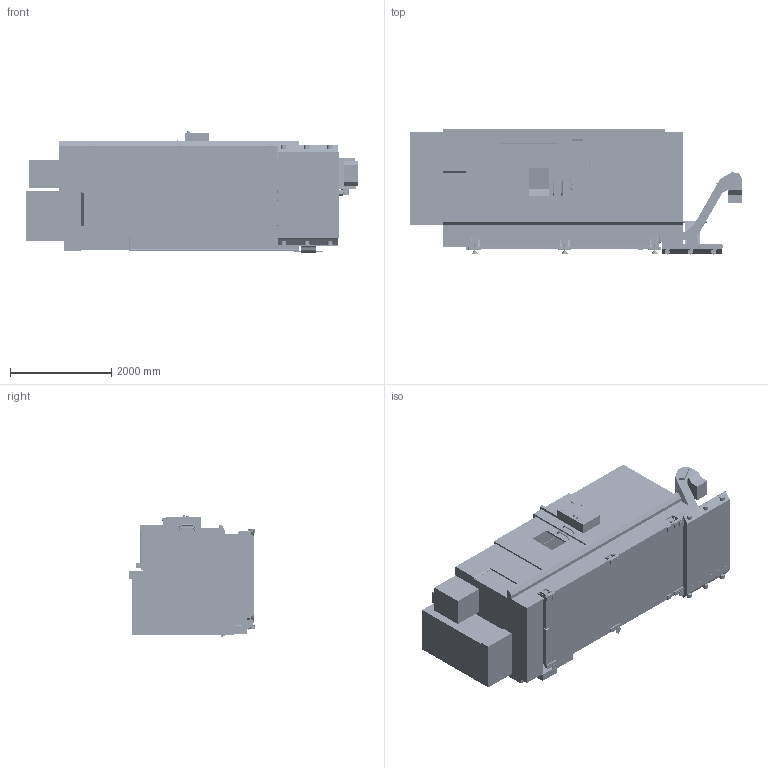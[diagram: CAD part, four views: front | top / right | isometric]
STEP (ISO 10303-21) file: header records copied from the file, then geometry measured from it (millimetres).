
FILE_DESCRIPTION (( 'STEP AP203' ), '1' );
FILE_NAME ('ST-55Y_2_2026.STEP', '2026-02-04T20:09:57', ( '' ), ( '' ), 'SwSTEP 2.0', 'SolidWorks 2023', '' );
FILE_SCHEMA (( 'CONFIG_CONTROL_DESIGN' ));
Length unit declared in the file: inch
Products named in the file (22): ST-55Y- Belt- Style Chip Conveyor; ST-55Y- Spindle assembly; ST-55Y-BMT75 Inch 24 Station Tool Kit; ST-55- Anchor Pattern; ST-55Y- Y-Z axis Wedge; ST-55Y-BMT75 Live Tool Kit; ST-55Y- Steady Rest; ST-55Y- Live center; ST-55Y- 95 gallon tank; ST-55Y- X-Y  Axis Wedge; ST-55Y- Leveling Pads; ST-55Y- Tail Stock; ST-55Y- Enclosure; ST-55Y- Control Panel; ST-55Y- Base Casting; ST-55Y- Doors; ST-55Y-BMT75 Turret; ST-55Y-BMT75-Metric Tool Kit; ST-55Y- X- Axis Turret Housing; ST-55Y-BMT75-Inch Tool Kit; ST-55Y_2_2026; ST-55Y-BMT75 Metric 24 Station Tool Kit
Assembly tree (21 placements, depth 2):
  ST-55Y_2_2026
    ST-55- Anchor Pattern
    ST-55Y- Leveling Pads
    ST-55Y- Base Casting
    ST-55Y- Spindle assembly
    ST-55Y- Tail Stock
    ST-55Y- Live center
    ST-55Y- Steady Rest
    ST-55Y- Y-Z axis Wedge
    ST-55Y- X-Y  Axis Wedge
    ST-55Y- X- Axis Turret Housing
    ST-55Y-BMT75 Turret
    ST-55Y-BMT75-Inch Tool Kit
    ST-55Y-BMT75-Metric Tool Kit
    ST-55Y-BMT75 Inch 24 Station Tool Kit
    ST-55Y-BMT75 Metric 24 Station Tool Kit
    ST-55Y-BMT75 Live Tool Kit
    ST-55Y- Enclosure
    ST-55Y- Doors
    ST-55Y- Control Panel
    ST-55Y- Belt- Style Chip Conveyor
    ST-55Y- 95 gallon tank
Bounding box: 6564.48 x 2474.79 x 2408.79 mm (x, y, z)
Volume: 9312706320 mm3; surface area: 177091469.3 mm2
Topology: 103 solids, 106 shells, 11884 faces, 30505 edges, 19251 vertices
Faces by surface type: plane 5325, cylinder 3259, cone 1878, bspline 1132, torus 176, sphere 114
Entity records: 423307 total; most frequent: CARTESIAN_POINT 142157, ORIENTED_EDGE 60172, DIRECTION 54596, EDGE_CURVE 30086, VERTEX_POINT 19246, AXIS2_PLACEMENT_3D 18595, VECTOR 17406, LINE 17406
